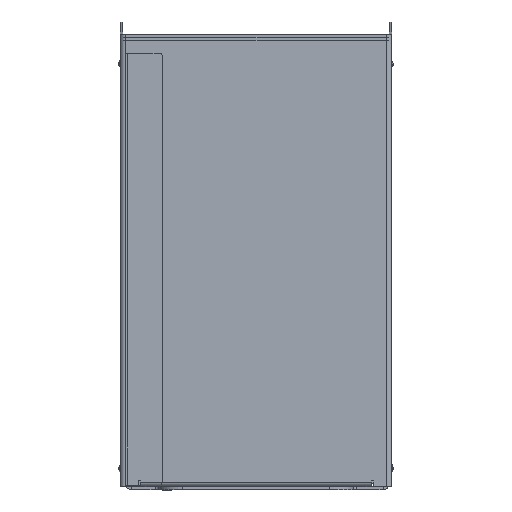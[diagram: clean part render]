
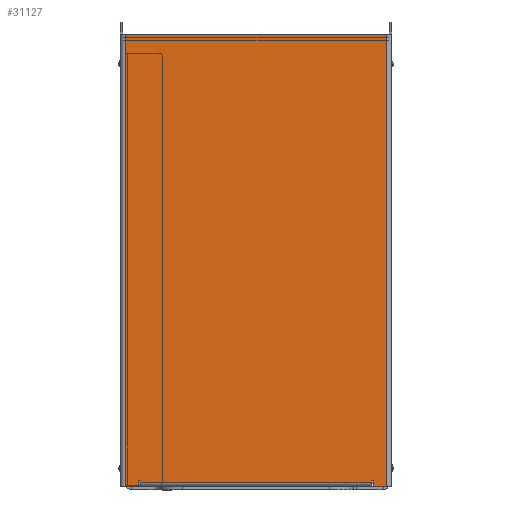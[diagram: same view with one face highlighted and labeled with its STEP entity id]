
A CAD part, front view. The second image highlights one B-rep face of the part: STEP entity #31127.
In plain terms, the highlighted planar face has unit normal (0, -1, 0).
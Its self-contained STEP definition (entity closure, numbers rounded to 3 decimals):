
#30857=CARTESIAN_POINT('',(-98.,-1.581,-118.464));
#30858=VERTEX_POINT('',#30857);
#30866=CARTESIAN_POINT('',(-243.,-1.581,-118.464));
#30867=VERTEX_POINT('',#30866);
#30868=CARTESIAN_POINT('',(-243.,-1.581,-118.464));
#30869=DIRECTION('',(1.0,0.0,0.0));
#30870=VECTOR('',#30869,145.);
#30871=LINE('',#30868,#30870);
#30872=EDGE_CURVE('',#30867,#30858,#30871,.T.);
#30987=CARTESIAN_POINT('',(-243.,-1.581,-117.714));
#30988=VERTEX_POINT('',#30987);
#30989=CARTESIAN_POINT('',(-243.,-1.581,-117.714));
#30990=DIRECTION('',(0.0,0.,-1.0));
#30991=VECTOR('',#30990,0.75);
#30992=LINE('',#30989,#30991);
#30993=EDGE_CURVE('',#30988,#30867,#30992,.T.);
#31010=CARTESIAN_POINT('',(-244.5,-1.581,-121.364));
#31011=VERTEX_POINT('',#31010);
#31012=CARTESIAN_POINT('',(-244.5,-1.581,-117.714));
#31013=VERTEX_POINT('',#31012);
#31014=CARTESIAN_POINT('',(-244.5,-1.581,-121.364));
#31015=DIRECTION('',(0.0,0.,1.0));
#31016=VECTOR('',#31015,3.65);
#31017=LINE('',#31014,#31016);
#31018=EDGE_CURVE('',#31011,#31013,#31017,.T.);
#31042=CARTESIAN_POINT('',(-244.5,-1.581,-117.714));
#31043=DIRECTION('',(1.0,0.0,0.0));
#31044=VECTOR('',#31043,1.5);
#31045=LINE('',#31042,#31044);
#31046=EDGE_CURVE('',#31013,#30988,#31045,.T.);
#31054=CARTESIAN_POINT('',(-170.5,-1.581,21.136));
#31055=DIRECTION('',(0.,-1.0,0.));
#31056=DIRECTION('',(0.,0.,-1.0));
#31057=AXIS2_PLACEMENT_3D('',#31054,#31055,#31056);
#31058=PLANE('',#31057);
#31059=ORIENTED_EDGE('',*,*,#31018,.T.);
#31060=ORIENTED_EDGE('',*,*,#31046,.T.);
#31061=ORIENTED_EDGE('',*,*,#30993,.T.);
#31062=ORIENTED_EDGE('',*,*,#30872,.T.);
#31063=CARTESIAN_POINT('',(-98.,-1.581,-117.714));
#31064=VERTEX_POINT('',#31063);
#31065=CARTESIAN_POINT('',(-98.,-1.581,-118.464));
#31066=DIRECTION('',(0.,0.,1.0));
#31067=VECTOR('',#31066,0.75);
#31068=LINE('',#31065,#31067);
#31069=EDGE_CURVE('',#30858,#31064,#31068,.T.);
#31070=ORIENTED_EDGE('',*,*,#31069,.T.);
#31071=CARTESIAN_POINT('',(-96.5,-1.581,-117.714));
#31072=VERTEX_POINT('',#31071);
#31073=CARTESIAN_POINT('',(-98.,-1.581,-117.714));
#31074=DIRECTION('',(1.0,0.0,0.0));
#31075=VECTOR('',#31074,1.5);
#31076=LINE('',#31073,#31075);
#31077=EDGE_CURVE('',#31064,#31072,#31076,.T.);
#31078=ORIENTED_EDGE('',*,*,#31077,.T.);
#31079=CARTESIAN_POINT('',(-96.5,-1.581,-121.364));
#31080=VERTEX_POINT('',#31079);
#31081=CARTESIAN_POINT('',(-96.5,-1.581,-117.714));
#31082=DIRECTION('',(0.,0.,-1.0));
#31083=VECTOR('',#31082,3.65);
#31084=LINE('',#31081,#31083);
#31085=EDGE_CURVE('',#31072,#31080,#31084,.T.);
#31086=ORIENTED_EDGE('',*,*,#31085,.T.);
#31087=CARTESIAN_POINT('',(-88.,-1.581,-121.364));
#31088=VERTEX_POINT('',#31087);
#31089=CARTESIAN_POINT('',(-88.,-1.581,-121.364));
#31090=DIRECTION('',(-1.0,0.0,0.0));
#31091=VECTOR('',#31090,8.5);
#31092=LINE('',#31089,#31091);
#31093=EDGE_CURVE('',#31088,#31080,#31092,.T.);
#31094=ORIENTED_EDGE('',*,*,#31093,.F.);
#31095=CARTESIAN_POINT('',(-88.,-1.581,163.636));
#31096=VERTEX_POINT('',#31095);
#31097=CARTESIAN_POINT('',(-88.,-1.581,163.636));
#31098=DIRECTION('',(0.,0.,-1.0));
#31099=VECTOR('',#31098,285.0);
#31100=LINE('',#31097,#31099);
#31101=EDGE_CURVE('',#31096,#31088,#31100,.T.);
#31102=ORIENTED_EDGE('',*,*,#31101,.F.);
#31103=CARTESIAN_POINT('',(-253.,-1.581,163.636));
#31104=VERTEX_POINT('',#31103);
#31105=CARTESIAN_POINT('',(-253.,-1.581,163.636));
#31106=DIRECTION('',(1.0,0.0,0.0));
#31107=VECTOR('',#31106,165.);
#31108=LINE('',#31105,#31107);
#31109=EDGE_CURVE('',#31104,#31096,#31108,.T.);
#31110=ORIENTED_EDGE('',*,*,#31109,.F.);
#31111=CARTESIAN_POINT('',(-253.,-1.581,-121.364));
#31112=VERTEX_POINT('',#31111);
#31113=CARTESIAN_POINT('',(-253.,-1.581,163.636));
#31114=DIRECTION('',(0.,0.,-1.0));
#31115=VECTOR('',#31114,285.0);
#31116=LINE('',#31113,#31115);
#31117=EDGE_CURVE('',#31104,#31112,#31116,.T.);
#31118=ORIENTED_EDGE('',*,*,#31117,.T.);
#31119=CARTESIAN_POINT('',(-244.5,-1.581,-121.364));
#31120=DIRECTION('',(-1.0,0.0,0.0));
#31121=VECTOR('',#31120,8.5);
#31122=LINE('',#31119,#31121);
#31123=EDGE_CURVE('',#31011,#31112,#31122,.T.);
#31124=ORIENTED_EDGE('',*,*,#31123,.F.);
#31125=EDGE_LOOP('',(#31059,#31060,#31061,#31062,#31070,#31078,#31086,#31094,#31102,#31110,#31118,#31124));
#31126=FACE_OUTER_BOUND('',#31125,.T.);
#31127=ADVANCED_FACE('',(#31126),#31058,.T.);
